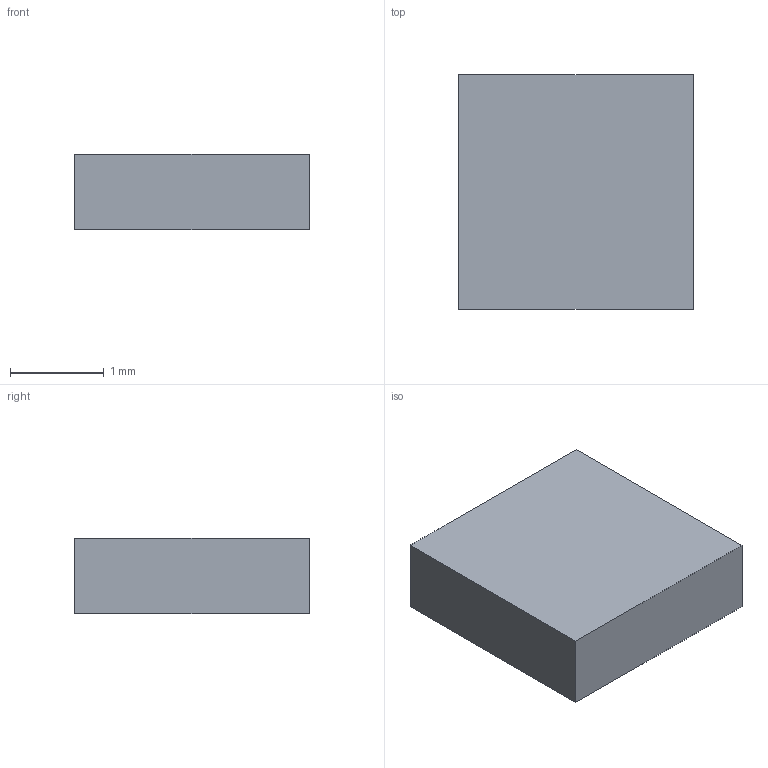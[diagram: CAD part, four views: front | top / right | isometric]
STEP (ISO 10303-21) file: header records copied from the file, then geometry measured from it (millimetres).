
FILE_DESCRIPTION(/* description */ ('STEP AP242 Edition 2','CAx-IF Rec.Pracs.---Representation and Presentation of Product Manufacturing Information (PMI)---4.0---2014-10-13','CAx-IF Rec.Pracs.---3D Tessellated Geometry---0.4---2014-09-14','2;1','CAx-IF Rec.Pracs.---User Defined Attributes---1.5---2016-08-15'),/* implementation_level */ '2;1');
FILE_NAME(/* name */ 'HIRO_Assembly - U2, RT6150B-33GQW, Buck Boost Converter, Raspberry Pi Pico-R3',/* time_stamp */ '2026-11-04T05:23:30Z',/* author */ (''),/* organization */ (''),/* preprocessor_version */ 'ST-DEVELOPER v20',/* originating_system */ 'ONSHAPE BY PTC INC, 1.223',/* authorisation */ ' ');
FILE_SCHEMA (('AP242_MANAGED_MODEL_BASED_3D_ENGINEERING_MIM_LF { 1 0 10303 442 3 1 4 }'));
Length unit declared in the file: metre
Products named in the file (1): U2, RT6150B-33GQW, Buck Boost Converter, Raspberry Pi Pico-R3
Bounding box: 2.5 x 2.5 x 0.8 mm (x, y, z)
Volume: 5 mm3; surface area: 20.5 mm2
Topology: 1 solids, 1 shells, 6 faces, 12 edges, 8 vertices
Faces by surface type: plane 6
Entity records: 221 total; most frequent: CARTESIAN_POINT 27, DIRECTION 26, ORIENTED_EDGE 24, EDGE_CURVE 12, LINE 12, VECTOR 12, VERTEX_POINT 8, PRESENTATION_STYLE_ASSIGNMENT 7
